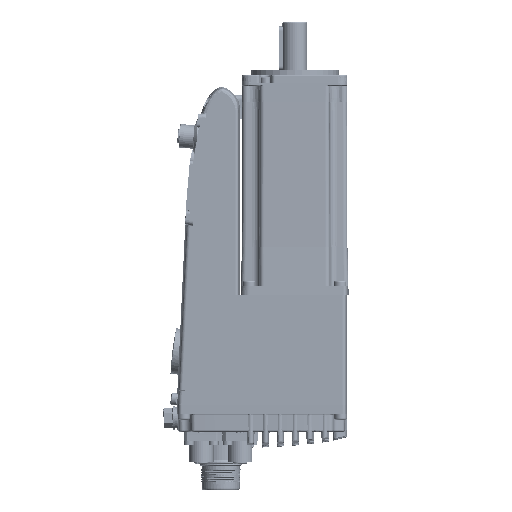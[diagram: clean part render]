
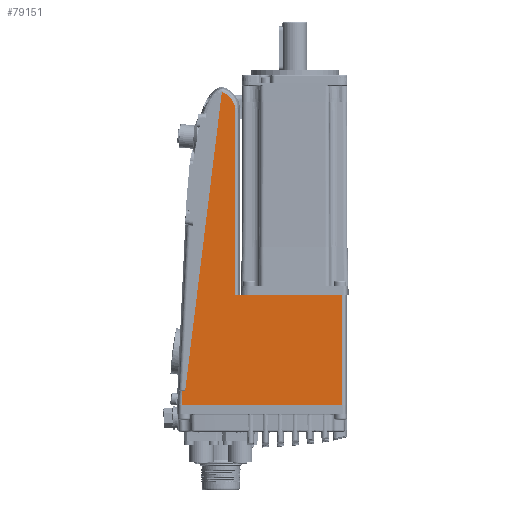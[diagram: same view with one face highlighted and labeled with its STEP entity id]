
A CAD part, left-side view. The second image highlights one B-rep face of the part: STEP entity #79151.
In plain terms, the highlighted planar face has unit normal (-1, 0, 0).
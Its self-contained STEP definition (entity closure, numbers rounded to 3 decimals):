
#7469=B_SPLINE_CURVE_WITH_KNOTS('',3,(#139731,#139732,#139733,#139734,#139735,
#139736,#139737,#139738,#139739,#139740,#139741,#139742,#139743,#139744,
#139745),.UNSPECIFIED.,.F.,.F.,(4,1,1,1,1,1,1,1,1,1,1,1,4),(0.741,
0.75,0.751,0.781,0.813,0.844,0.854,0.875,0.879,
0.906,0.938,0.969,1.),.UNSPECIFIED.);
#7470=B_SPLINE_CURVE_WITH_KNOTS('',3,(#139751,#139752,#139753,#139754),
 .UNSPECIFIED.,.F.,.F.,(4,4),(0.,1.),
 .UNSPECIFIED.);
#19435=ORIENTED_EDGE('',*,*,#31188,.F.);
#19436=ORIENTED_EDGE('',*,*,#31072,.T.);
#19437=ORIENTED_EDGE('',*,*,#31189,.T.);
#19438=ORIENTED_EDGE('',*,*,#31190,.F.);
#19439=ORIENTED_EDGE('',*,*,#31034,.F.);
#19440=ORIENTED_EDGE('',*,*,#31191,.T.);
#19441=ORIENTED_EDGE('',*,*,#31110,.F.);
#19442=ORIENTED_EDGE('',*,*,#31192,.T.);
#31034=EDGE_CURVE('',#37824,#37825,#41894,.T.);
#31072=EDGE_CURVE('',#37857,#37856,#41921,.T.);
#31110=EDGE_CURVE('',#37888,#37889,#41945,.T.);
#31188=EDGE_CURVE('',#37857,#37941,#7469,.T.);
#31189=EDGE_CURVE('',#37856,#37942,#41980,.T.);
#31190=EDGE_CURVE('',#37825,#37942,#41981,.F.);
#31191=EDGE_CURVE('',#37824,#37889,#41982,.T.);
#31192=EDGE_CURVE('',#37888,#37941,#7470,.T.);
#37824=VERTEX_POINT('',#138752);
#37825=VERTEX_POINT('',#138754);
#37856=VERTEX_POINT('',#138833);
#37857=VERTEX_POINT('',#138835);
#37888=VERTEX_POINT('',#138924);
#37889=VERTEX_POINT('',#138926);
#37941=VERTEX_POINT('',#139746);
#37942=VERTEX_POINT('',#139748);
#41894=LINE('',#138753,#45652);
#41921=LINE('',#138834,#45679);
#41945=LINE('',#138925,#45703);
#41980=LINE('',#139747,#45738);
#41981=LINE('',#139749,#45739);
#41982=LINE('',#139750,#45740);
#45652=VECTOR('',#98687,1000.);
#45679=VECTOR('',#98742,1000.);
#45703=VECTOR('',#98784,1000.);
#45738=VECTOR('',#98885,1000.);
#45739=VECTOR('',#98886,1000.);
#45740=VECTOR('',#98887,1000.);
#50510=EDGE_LOOP('',(#19435,#19436,#19437,#19438,#19439,#19440,#19441,#19442));
#55302=FACE_BOUND('',#50510,.T.);
#57500=PLANE('',#85301);
#79151=ADVANCED_FACE('',(#55302),#57500,.T.);
#85301=AXIS2_PLACEMENT_3D('',#139730,#98883,#98884);
#98687=DIRECTION('',(0.,1.,0.));
#98742=DIRECTION('',(0.,0.122,-0.993));
#98784=DIRECTION('',(0.,-1.,0.));
#98883=DIRECTION('',(-1.,0.,0.));
#98884=DIRECTION('',(0.,1.,0.));
#98885=DIRECTION('',(0.,1.,-0.009));
#98886=DIRECTION('',(0.,0.047,-0.999));
#98887=DIRECTION('',(0.,0.,1.));
#138752=CARTESIAN_POINT('',(-30.,-27.131,-62.8));
#138753=CARTESIAN_POINT('',(-30.,64.179,-62.8));
#138754=CARTESIAN_POINT('',(-30.,64.131,-62.8));
#138833=CARTESIAN_POINT('',(-30.,62.175,-54.46));
#138834=CARTESIAN_POINT('',(-30.,63.335,-63.904));
#138835=CARTESIAN_POINT('',(-30.,41.351,115.14));
#138924=CARTESIAN_POINT('',(-30.,33.84,0.));
#138925=CARTESIAN_POINT('',(-30.,33.865,0.));
#138926=CARTESIAN_POINT('',(-30.,-27.131,0.));
#139730=CARTESIAN_POINT('',(-30.,64.179,-63.8));
#139731=CARTESIAN_POINT('',(-30.,41.351,115.14));
#139732=CARTESIAN_POINT('',(-30.,41.278,115.139));
#139733=CARTESIAN_POINT('',(-30.,41.199,115.131));
#139734=CARTESIAN_POINT('',(-30.,40.85,115.076));
#139735=CARTESIAN_POINT('',(-30.,40.176,114.876));
#139736=CARTESIAN_POINT('',(-30.,38.714,114.021));
#139737=CARTESIAN_POINT('',(-30.,37.598,113.083));
#139738=CARTESIAN_POINT('',(-30.,36.76,112.255));
#139739=CARTESIAN_POINT('',(-30.,36.354,111.8));
#139740=CARTESIAN_POINT('',(-30.,35.788,111.093));
#139741=CARTESIAN_POINT('',(-30.,35.161,110.194));
#139742=CARTESIAN_POINT('',(-30.,34.464,108.767));
#139743=CARTESIAN_POINT('',(-30.,33.974,107.039));
#139744=CARTESIAN_POINT('',(-30.,33.865,105.634));
#139745=CARTESIAN_POINT('',(-30.,33.865,104.865));
#139746=CARTESIAN_POINT('',(-30.,33.865,104.865));
#139747=CARTESIAN_POINT('',(-30.,64.26,-54.478));
#139748=CARTESIAN_POINT('',(-30.,63.739,-54.473));
#139749=CARTESIAN_POINT('',(-30.,64.053,-61.15));
#139750=CARTESIAN_POINT('',(-30.,-27.131,-62.8));
#139751=CARTESIAN_POINT('',(-30.,33.865,0.));
#139752=CARTESIAN_POINT('',(-30.,33.865,34.955));
#139753=CARTESIAN_POINT('',(-30.,33.865,69.91));
#139754=CARTESIAN_POINT('',(-30.,33.865,104.865));
